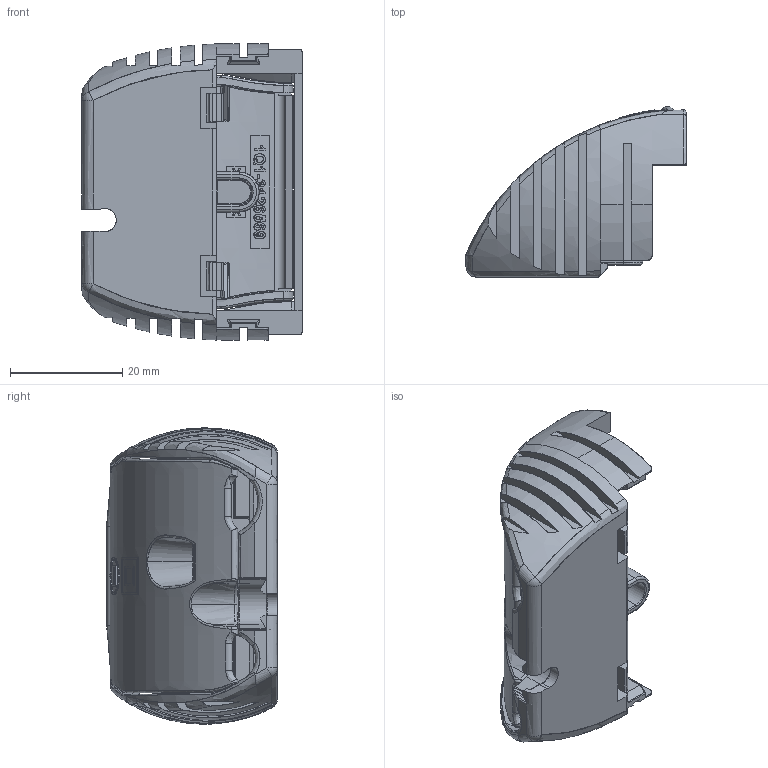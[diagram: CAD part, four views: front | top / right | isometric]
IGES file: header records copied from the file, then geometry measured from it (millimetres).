
Start section: SolidWorks IGES file using analytic representation for surfaces
Global section: file name: M:\ASSEMBLIES\OT\OTi_Dali 15\OT-CableClamp-F-Style_CADexport.IGS; native system: SolidWorks 2012; preprocessor: SolidWorks 2012; author: w.ebert; date: 151020.172335; units: millimetre
Bounding box: 39.2 x 30.45 x 52.8 mm (x, y, z)
Surface area: 15589.8 mm2 (no closed solid volume)
Topology: 0 solids, 0 shells, 1540 faces, 15040 edges, 15019 vertices
Faces by surface type: bspline 1086, revolution 454
